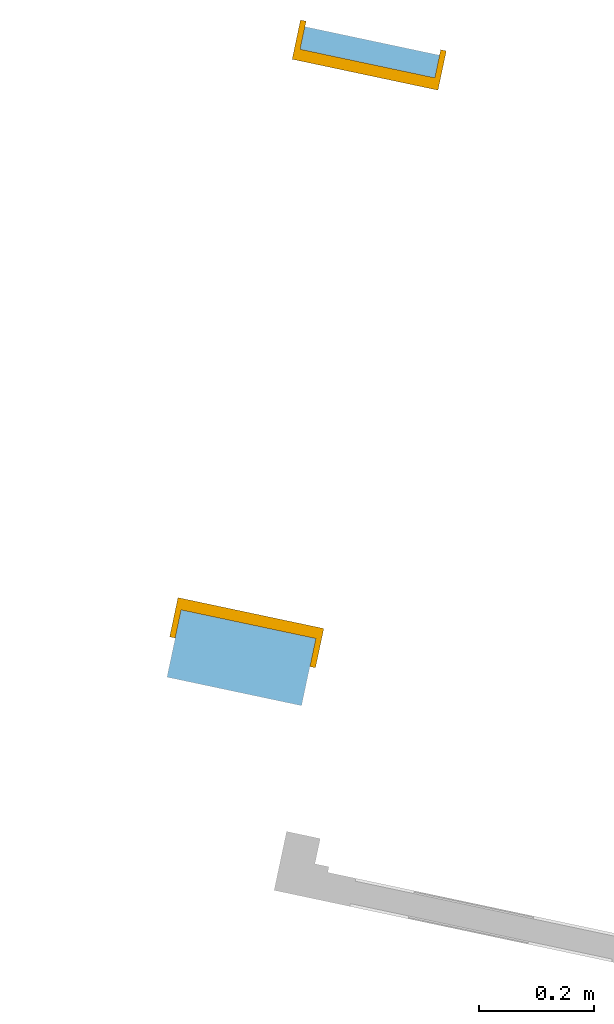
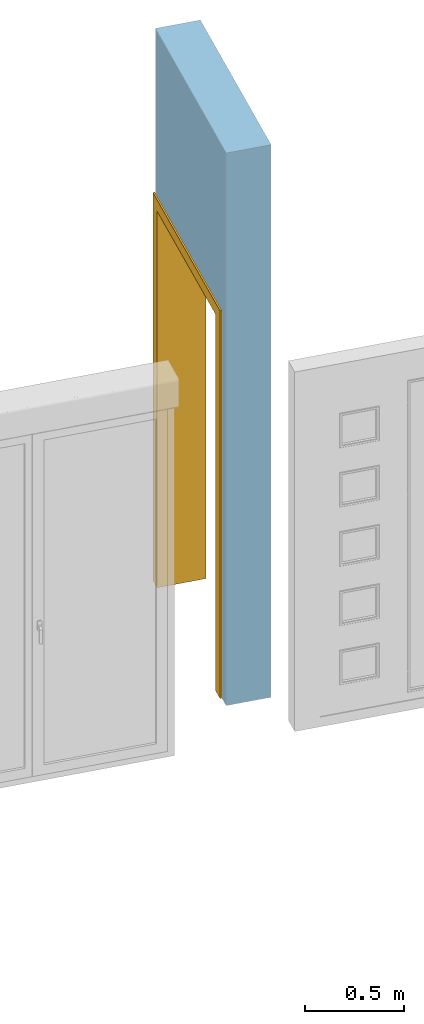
# One storey, part 2 of 2: 1 door, 1 opening, plus 1 element that does not belong to this part.
"""IFC2X3 building model written with IfcOpenShell, lengths in metres."""

from ifc_helpers import new_model, entity, si_unit, converted_unit, derived_unit, direction, frame, frame_2d, origin, place, context, subcontext, project, spatial, rectangle, extrude, faceted_brep, source, transform, mapped, material, layer, layer_set, layer_usage, type_object, type_shapes, element, fill, save


model = new_model("IFC2X3")

# Units and contexts
model_context = context("Model", 3, precision=1e-05, world=origin(), true_north=direction((6.12303176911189e-17, 1.0)))
body_context = subcontext(model_context, "Body", "Model", "MODEL_VIEW")
ifc_project = project(units=[si_unit("LENGTHUNIT", "METRE"), si_unit("AREAUNIT", "SQUARE_METRE"), si_unit("VOLUMEUNIT", "CUBIC_METRE"), converted_unit("PLANEANGLEUNIT", "DEGREE", entity("IfcRatioMeasure", 0.0174532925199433), si_unit("PLANEANGLEUNIT", "RADIAN"), dimensions=[0, 0, 0, 0, 0, 0, 0]), si_unit("MASSUNIT", "GRAM", prefix="KILO"), derived_unit("MASSDENSITYUNIT", [(si_unit("MASSUNIT", "GRAM", prefix="KILO"), 1), (si_unit("LENGTHUNIT", "METRE"), -3)]), si_unit("TIMEUNIT", "SECOND"), si_unit("FREQUENCYUNIT", "HERTZ"), si_unit("THERMODYNAMICTEMPERATUREUNIT", "DEGREE_CELSIUS"), derived_unit("THERMALTRANSMITTANCEUNIT", [(si_unit("MASSUNIT", "GRAM", prefix="KILO"), 1), (si_unit("THERMODYNAMICTEMPERATUREUNIT", "KELVIN"), -1), (si_unit("TIMEUNIT", "SECOND"), -3)]), derived_unit("VOLUMETRICFLOWRATEUNIT", [(si_unit("LENGTHUNIT", "METRE"), 3), (si_unit("TIMEUNIT", "SECOND"), -1)]), si_unit("ELECTRICCURRENTUNIT", "AMPERE"), si_unit("ELECTRICVOLTAGEUNIT", "VOLT"), si_unit("POWERUNIT", "WATT"), si_unit("FORCEUNIT", "NEWTON", prefix="KILO"), si_unit("ILLUMINANCEUNIT", "LUX"), si_unit("LUMINOUSFLUXUNIT", "LUMEN"), si_unit("LUMINOUSINTENSITYUNIT", "CANDELA"), derived_unit("USERDEFINED", [(si_unit("MASSUNIT", "GRAM", prefix="KILO"), -1), (si_unit("LENGTHUNIT", "METRE"), -2), (si_unit("TIMEUNIT", "SECOND"), 3), (si_unit("LUMINOUSFLUXUNIT", "LUMEN"), 1)]), derived_unit("LINEARVELOCITYUNIT", [(si_unit("LENGTHUNIT", "METRE"), 1), (si_unit("TIMEUNIT", "SECOND"), -1)]), si_unit("PRESSUREUNIT", "PASCAL"), derived_unit("USERDEFINED", [(si_unit("LENGTHUNIT", "METRE"), -2), (si_unit("MASSUNIT", "GRAM", prefix="KILO"), 1), (si_unit("TIMEUNIT", "SECOND"), -2)])], contexts=[model_context])

# Site, building, storey
site_placement = place(None, origin())
site = spatial("IfcSite", under=ifc_project, at=site_placement, Name="Default", CompositionType="ELEMENT")
building_placement = place(site_placement, origin())
building = spatial("IfcBuilding", under=site, at=building_placement, CompositionType="ELEMENT")
storey_placement = place(building_placement, origin())
storey = spatial("IfcBuildingStorey", under=building, at=storey_placement, Name="Plan des fondations  Maisons 1 et 2", CompositionType="ELEMENT", Elevation=0.0)

# Wall, opening, door
ifc_material_1 = material(Name="Enduit blanc cassé2")
ifc_layer_1 = layer(ifc_material_1, 0.02)
ifc_material_2 = material(Name="Parpaing")
ifc_layer_2 = layer(ifc_material_2, 0.2)
ifc_layer_3 = layer(ifc_material_1, 0.02)
ifc_layer_set = layer_set([ifc_layer_1, ifc_layer_2, ifc_layer_3], Name="Mur de base:Ext. Parpaing 2 + 20 + 2")
ifc_layer_usage = layer_usage(ifc_layer_set, "AXIS2", "NEGATIVE", 0.12)
wall_type = type_object("IfcWallType", Name="Mur de base:Ext. Parpaing 2 + 20 + 2", PredefinedType="STANDARD", material=ifc_layer_set)
wall_placement = place(storey_placement, frame((-15.1291142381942, 87.4745572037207, 0.0), z_axis=(0.0, 0.0, 1.0), x_axis=(-0.20748429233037, -0.978238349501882, 0.0)))
wall = element("IfcWallStandardCase", 1, at=wall_placement, inside=storey, type_object=wall_type, material=ifc_layer_usage, Name="Mur de base:Ext. Parpaing 2 + 20 + 2", ObjectType="Mur de base:Ext. Parpaing 2 + 20 + 2", context=body_context, shape_type="SweptSolid", body=[
    extrude(rectangle(XDim=1.16, YDim=0.24, at=frame_2d((0.58, 7.63278329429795e-16), x_axis=(-1.0, 0.0))), origin(), (0.0, 0.0, 1.0), 3.42),
])
opening_placement = place(wall_placement, frame((0.040239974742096, -0.120000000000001, 0.0)))
opening = element("IfcOpeningElement", 2, at=opening_placement, cuts=wall, Name="Ouverture en rectangle:Ouverture en rectangle 1.00 M:1", ObjectType="Opening", context=body_context, shape_type="SweptSolid", body=[
    extrude(rectangle(XDim=2.34999999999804, YDim=1.0, at=frame_2d((1.17499999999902, 0.5), x_axis=(1.0, 0.0))), frame((0.0, 0.0, 0.0), z_axis=(0.0, 1.0, 0.0), x_axis=(0.0, 0.0, 1.0)), (0.0, 0.0, 1.0), 0.24),
])
ifc_material_3 = material(Name="RAL 212")
door_style = type_object("IfcDoorStyle", Name="Ouverture en rectangle 1.00 M", ConstructionType="NOTDEFINED", OperationType="NOTDEFINED", ParameterTakesPrecedence=False, Sizeable=False, material=ifc_material_3)
shared_shape = source(origin(), body_context, "Body", "Brep", [
    faceted_brep([(0.0, 0.0, 0.0), (0.0, 0.24000000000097, 0.0), (-0.0499999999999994, 0.24000000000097, 0.0), (-0.0499999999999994, 0.25000000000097, 0.0), (0.0200000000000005, 0.25000000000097, 0.0), (0.0200000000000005, -0.00999999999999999, 0.0), (-0.0499999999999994, -0.00999999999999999, 0.0), (-0.0499999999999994, 0.0, 0.0), (0.0, 0.0, 2.34999999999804), (0.0, 0.24000000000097, 2.34999999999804), (1.0, 0.24000000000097, 2.34999999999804), (1.0, 0.24000000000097, 0.0), (1.05, 0.24000000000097, 0.0), (1.05, 0.24000000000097, 2.39999999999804), (-0.0499999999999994, 0.24000000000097, 2.39999999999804), (-0.0499999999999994, 0.25000000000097, 2.39999999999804), (1.05, 0.25000000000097, 2.39999999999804), (1.05, 0.25000000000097, 0.0), (0.979999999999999, 0.25000000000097, 0.0), (0.979999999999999, 0.25000000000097, 2.32999999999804), (0.0200000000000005, 0.25000000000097, 2.32999999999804), (0.0200000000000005, -0.00999999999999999, 2.32999999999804), (0.979999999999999, -0.00999999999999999, 2.32999999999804), (0.979999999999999, -0.00999999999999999, 0.0), (1.05, -0.00999999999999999, 0.0), (1.05, -0.00999999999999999, 2.39999999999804), (-0.0499999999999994, -0.00999999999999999, 2.39999999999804), (-0.0499999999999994, 0.0, 2.39999999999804), (1.05, 0.0, 2.39999999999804), (1.05, 0.0, 0.0), (1.0, 0.0, 0.0), (1.0, 0.0, 2.34999999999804)], [[[0, 1, 2, 3, 4, 5, 6, 7]], [[1, 0, 8, 9]], [[2, 1, 9, 10, 11, 12, 13, 14]], [[3, 2, 14, 15]], [[4, 3, 15, 16, 17, 18, 19, 20]], [[5, 4, 20, 21]], [[6, 5, 21, 22, 23, 24, 25, 26]], [[7, 6, 26, 27]], [[0, 7, 27, 28, 29, 30, 31, 8]], [[10, 31, 30, 11]], [[30, 29, 24, 23, 18, 17, 12, 11]], [[16, 13, 12, 17]], [[22, 19, 18, 23]], [[28, 25, 24, 29]], [[9, 8, 31, 10]], [[15, 14, 13, 16]], [[21, 20, 19, 22]], [[27, 26, 25, 28]]]),
])
type_shapes(door_style, [shared_shape])
door_placement = place(opening_placement, origin())
door = element("IfcDoor", 3, at=door_placement, inside=storey, type_object=door_style, material=ifc_material_3, Name="Ouverture en rectangle:Ouverture en rectangle 1.00 M", ObjectType="Ouverture en rectangle:Ouverture en rectangle 1.00 M", OverallHeight=2.34999999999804, OverallWidth=1.0, context=body_context, shape_type="MappedRepresentation", body=[
    mapped(shared_shape, transform((0.0, 0.0, 0.0), scale=1.0)),
])
fill(opening, door)

save(model, "model.ifc")
